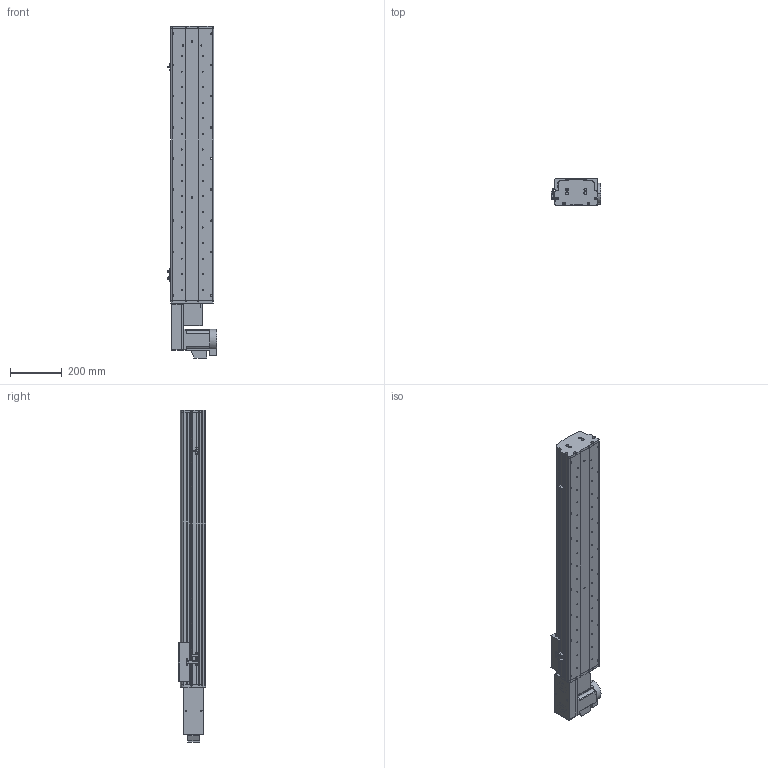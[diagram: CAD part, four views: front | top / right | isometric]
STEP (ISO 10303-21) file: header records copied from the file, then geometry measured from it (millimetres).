
FILE_DESCRIPTION (( 'STEP AP214' ), '1' );
FILE_NAME ('KSD165B-S800-MLB-CM.STEP', '2017-10-16T06:11:49', ( '微软用户' ), ( '微软中国' ), 'SwSTEP 2.0', 'SolidWorks 2014', '' );
FILE_SCHEMA (( 'AUTOMOTIVE_DESIGN' ));
Length unit declared in the file: millimetre
Products named in the file (17): 覜茼え68遵圉猾敕; KSD165模组-同步带-防撞垫2; KSD165模组同步带-防撞垫1; KSD165耀郪-ヶ傷啣1-肮祭湍; KSD165模组-后端板1-同步带; KSD165模组-同步带滑动座-最新版; KSD165B-S800-MLB-CM; HTPA26S5M250-A-H8 750W萇儂蚚; HTPA26S5M250-A-H8 400W萇儂蚚 ; 130宽模组马达安装板连板左右折同步带; 130宽模组保护罩上下左右折-同步带; 165宽马达安装板同步带左-改; KSD165模组-同步带防尘盖1-800行程-最新版; KSD165模组同步带底板-800行程-最新; 拸秶雄ん750W侜督萇儂; U倰嫖萇假蚾璃; U倰嫖萇EEㄜSX672
Assembly tree (20 placements, depth 2):
  KSD165B-S800-MLB-CM
    KSD165模组-同步带滑动座-最新版
    KSD165模组-后端板1-同步带
    KSD165耀郪-ヶ傷啣1-肮祭湍
    KSD165模组同步带-防撞垫1
    KSD165模组-同步带-防撞垫2
    覜茼え68遵圉猾敕
    U倰嫖萇EEㄜSX672  x3
    U倰嫖萇假蚾璃  x3
    拸秶雄ん750W侜督萇儂
    KSD165模组同步带底板-800行程-最新
    KSD165模组-同步带防尘盖1-800行程-最新版
    165宽马达安装板同步带左-改
    130宽模组保护罩上下左右折-同步带
    130宽模组马达安装板连板左右折同步带
    HTPA26S5M250-A-H8 400W萇儂蚚 
    HTPA26S5M250-A-H8 750W萇儂蚚
Bounding box: 191.2 x 104 x 1278 mm (x, y, z)
Volume: 7015504.2 mm3; surface area: 1628495.9 mm2
Topology: 21 solids, 22 shells, 1943 faces, 5478 edges, 3576 vertices
Faces by surface type: cylinder 1245, plane 586, cone 112
Entity records: 62864 total; most frequent: CARTESIAN_POINT 12882, DIRECTION 10350, ORIENTED_EDGE 9616, EDGE_CURVE 4808, AXIS2_PLACEMENT_3D 4058, VERTEX_POINT 3168, CIRCLE 2312, VECTOR 2234
